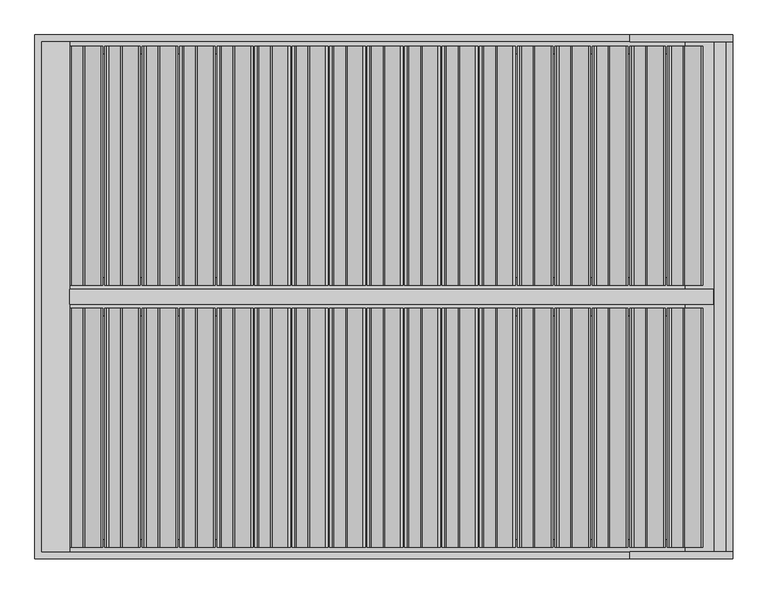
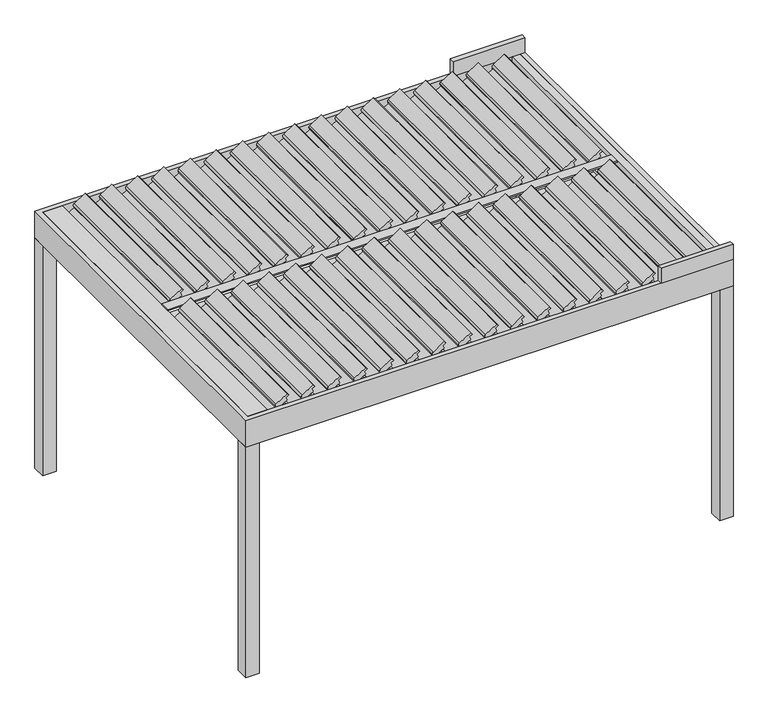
"""IFC4 building model written with IfcOpenShell, lengths in millimetres: proxy geometry, Renson_Algarve_Single Unit With Intermediate Beam : Algarve - Single Unit With Intermediate Beam."""

from ifc_helpers import new_model, si_unit, point, frame, frame_2d, origin, origin_with_axes, place, context, project, spatial, polyline, circle_curve, trimmed, segment, composite_curve, outline, extrude, faceted_brep, source, transform, mapped, element, save


def generic_models_2351d9f3(model_context):
    return source(origin(), model_context, "Body", "SolidModel", [
        extrude(outline(composite_curve([segment(polyline([(2239.6354765, 1602.1127309), (2264.8015087, 1590.3776174), (2280.418628, 1614.6571486), (2295.5823251, 1601.9332959), (2236.0080876, 1509.3147703)]), True, "CONTINUOUS"), segment(trimmed(circle_curve(frame_2d((2223.3925024, 1517.4293873)), 15.0), [point((2236.0080876, 1509.3147703))], [point((2218.2622002, 1503.333998))], False, "CARTESIAN"), True, "CONTINUOUS"), segment(polyline([(2218.2622002, 1503.333998), (2199.9135617, 1510.0123563), (2156.0456737, 1434.0309454), (2169.3306402, 1422.883535), (2161.0566607, 1410.0201932), (2135.5876405, 1421.8965924), (2239.6354765, 1602.1127309)]), True, "CONTINUOUS")], self_intersect=False)), frame((0.0, -2185.0, 0.0), z_axis=(0.0, 1.0, 0.0), x_axis=(0.0, 0.0, 1.0)), (0.0, 0.0, 1.0), 1370.0),
        extrude(outline(composite_curve([segment(polyline([(2239.6354765, 1387.1019261), (2264.8015087, 1375.3668126), (2280.418628, 1399.6463438), (2295.5823251, 1386.9224911), (2236.0080876, 1294.3039655)]), True, "CONTINUOUS"), segment(trimmed(circle_curve(frame_2d((2223.3925024, 1302.4185826)), 15.0), [point((2236.0080876, 1294.3039655))], [point((2218.2622002, 1288.3231933))], False, "CARTESIAN"), True, "CONTINUOUS"), segment(polyline([(2218.2622002, 1288.3231933), (2199.9135617, 1295.0015515), (2156.0456737, 1219.0201406), (2169.3306402, 1207.8727302), (2161.0566607, 1195.0093884), (2135.5876405, 1206.8857876), (2239.6354765, 1387.1019261)]), True, "CONTINUOUS")], self_intersect=False)), frame((0.0, -2185.0, 0.0), z_axis=(0.0, 1.0, 0.0), x_axis=(0.0, 0.0, 1.0)), (0.0, 0.0, 1.0), 1370.0),
        extrude(outline(composite_curve([segment(polyline([(2239.6354765, 1172.0911213), (2264.8015087, 1160.3560078), (2280.418628, 1184.635539), (2295.5823251, 1171.9116864), (2236.0080876, 1079.2931607)]), True, "CONTINUOUS"), segment(trimmed(circle_curve(frame_2d((2223.3925024, 1087.4077778)), 15.0), [point((2236.0080876, 1079.2931607))], [point((2218.2622002, 1073.3123885))], False, "CARTESIAN"), True, "CONTINUOUS"), segment(polyline([(2218.2622002, 1073.3123885), (2199.9135617, 1079.9907467), (2156.0456737, 1004.0093359), (2169.3306402, 992.8619254), (2161.0566607, 979.9985836), (2135.5876405, 991.8749828), (2239.6354765, 1172.0911213)]), True, "CONTINUOUS")], self_intersect=False)), frame((0.0, -2185.0, 0.0), z_axis=(0.0, 1.0, 0.0), x_axis=(0.0, 0.0, 1.0)), (0.0, 0.0, 1.0), 1370.0),
        extrude(outline(composite_curve([segment(polyline([(2239.6354765, 957.0803166), (2264.8015087, 945.345203), (2280.418628, 969.6247342), (2295.5823251, 956.9008816), (2236.0080876, 864.2823559)]), True, "CONTINUOUS"), segment(trimmed(circle_curve(frame_2d((2223.3925024, 872.396973)), 15.0), [point((2236.0080876, 864.2823559))], [point((2218.2622002, 858.3015837))], False, "CARTESIAN"), True, "CONTINUOUS"), segment(polyline([(2218.2622002, 858.3015837), (2199.9135617, 864.9799419), (2156.0456737, 788.9985311), (2169.3306402, 777.8511206), (2161.0566607, 764.9877788), (2135.5876405, 776.864178), (2239.6354765, 957.0803166)]), True, "CONTINUOUS")], self_intersect=False)), frame((0.0, -2185.0, 0.0), z_axis=(0.0, 1.0, 0.0), x_axis=(0.0, 0.0, 1.0)), (0.0, 0.0, 1.0), 1370.0),
        extrude(outline(composite_curve([segment(polyline([(2239.6354765, 742.0695118), (2264.8015087, 730.3343982), (2280.418628, 754.6139294), (2295.5823251, 741.8900768), (2236.0080876, 649.2715512)]), True, "CONTINUOUS"), segment(trimmed(circle_curve(frame_2d((2223.3925024, 657.3861682)), 15.0), [point((2236.0080876, 649.2715512))], [point((2218.2622002, 643.2907789))], False, "CARTESIAN"), True, "CONTINUOUS"), segment(polyline([(2218.2622002, 643.2907789), (2199.9135617, 649.9691372), (2156.0456737, 573.9877263), (2169.3306402, 562.8403158), (2161.0566607, 549.9769741), (2135.5876405, 561.8533733), (2239.6354765, 742.0695118)]), True, "CONTINUOUS")], self_intersect=False)), frame((0.0, -2185.0, 0.0), z_axis=(0.0, 1.0, 0.0), x_axis=(0.0, 0.0, 1.0)), (0.0, 0.0, 1.0), 1370.0),
        extrude(outline(composite_curve([segment(polyline([(2239.6354765, 527.058707), (2264.8015087, 515.3235934), (2280.418628, 539.6031247), (2295.5823251, 526.879272), (2236.0080876, 434.2607464)]), True, "CONTINUOUS"), segment(trimmed(circle_curve(frame_2d((2223.3925024, 442.3753634)), 15.0), [point((2236.0080876, 434.2607464))], [point((2218.2622002, 428.2799741))], False, "CARTESIAN"), True, "CONTINUOUS"), segment(polyline([(2218.2622002, 428.2799741), (2199.9135617, 434.9583324), (2156.0456737, 358.9769215), (2169.3306402, 347.829511), (2161.0566607, 334.9661693), (2135.5876405, 346.8425685), (2239.6354765, 527.058707)]), True, "CONTINUOUS")], self_intersect=False)), frame((0.0, -2185.0, 0.0), z_axis=(0.0, 1.0, 0.0), x_axis=(0.0, 0.0, 1.0)), (0.0, 0.0, 1.0), 1370.0),
        extrude(outline(composite_curve([segment(polyline([(2239.6354765, 312.0479022), (2264.8015087, 300.3127887), (2280.418628, 324.5923199), (2295.5823251, 311.8684672), (2236.0080876, 219.2499416)]), True, "CONTINUOUS"), segment(trimmed(circle_curve(frame_2d((2223.3925024, 227.3645587)), 15.0), [point((2236.0080876, 219.2499416))], [point((2218.2622002, 213.2691693))], False, "CARTESIAN"), True, "CONTINUOUS"), segment(polyline([(2218.2622002, 213.2691693), (2199.9135617, 219.9475276), (2156.0456737, 143.9661167), (2169.3306402, 132.8187063), (2161.0566607, 119.9553645), (2135.5876405, 131.8317637), (2239.6354765, 312.0479022)]), True, "CONTINUOUS")], self_intersect=False)), frame((0.0, -2185.0, 0.0), z_axis=(0.0, 1.0, 0.0), x_axis=(0.0, 0.0, 1.0)), (0.0, 0.0, 1.0), 1370.0),
        extrude(outline(composite_curve([segment(polyline([(2239.6354765, 97.0370974), (2264.8015087, 85.3019839), (2280.418628, 109.5815151), (2295.5823251, 96.8576625), (2236.0080876, 4.2391368)]), True, "CONTINUOUS"), segment(trimmed(circle_curve(frame_2d((2223.3925024, 12.3537539)), 15.0), [point((2236.0080876, 4.2391368))], [point((2218.2622002, -1.7416354))], False, "CARTESIAN"), True, "CONTINUOUS"), segment(polyline([(2218.2622002, -1.7416354), (2199.9135617, 4.9367228), (2156.0456737, -71.0446881), (2169.3306402, -82.1920985), (2161.0566607, -95.0554403), (2135.5876405, -83.1790411), (2239.6354765, 97.0370974)]), True, "CONTINUOUS")], self_intersect=False)), frame((0.0, -2185.0, 0.0), z_axis=(0.0, 1.0, 0.0), x_axis=(0.0, 0.0, 1.0)), (0.0, 0.0, 1.0), 1370.0),
        extrude(outline(composite_curve([segment(polyline([(2239.6354765, -117.9737074), (2264.8015087, -129.7088209), (2280.418628, -105.4292897), (2295.5823251, -118.1531423), (2236.0080876, -210.771668)]), True, "CONTINUOUS"), segment(trimmed(circle_curve(frame_2d((2223.3925024, -202.6570509)), 15.0), [point((2236.0080876, -210.771668))], [point((2218.2622002, -216.7524402))], False, "CARTESIAN"), True, "CONTINUOUS"), segment(polyline([(2218.2622002, -216.7524402), (2199.9135617, -210.074082), (2156.0456737, -286.0554928), (2169.3306402, -297.2029033), (2161.0566607, -310.0662451), (2135.5876405, -298.1898459), (2239.6354765, -117.9737074)]), True, "CONTINUOUS")], self_intersect=False)), frame((0.0, -2185.0, 0.0), z_axis=(0.0, 1.0, 0.0), x_axis=(0.0, 0.0, 1.0)), (0.0, 0.0, 1.0), 1370.0),
        extrude(outline(composite_curve([segment(polyline([(2239.6354765, -332.9845121), (2264.8015087, -344.7196257), (2280.418628, -320.4400945), (2295.5823251, -333.1639471), (2236.0080876, -425.7824728)]), True, "CONTINUOUS"), segment(trimmed(circle_curve(frame_2d((2223.3925024, -417.6678557)), 15.0), [point((2236.0080876, -425.7824728))], [point((2218.2622002, -431.763245))], False, "CARTESIAN"), True, "CONTINUOUS"), segment(polyline([(2218.2622002, -431.763245), (2199.9135617, -425.0848868), (2156.0456737, -501.0662976), (2169.3306402, -512.2137081), (2161.0566607, -525.0770498), (2135.5876405, -513.2006506), (2239.6354765, -332.9845121)]), True, "CONTINUOUS")], self_intersect=False)), frame((0.0, -2185.0, 0.0), z_axis=(0.0, 1.0, 0.0), x_axis=(0.0, 0.0, 1.0)), (0.0, 0.0, 1.0), 1370.0),
        extrude(outline(composite_curve([segment(polyline([(2239.6354765, -547.9953169), (2264.8015087, -559.7304305), (2280.418628, -535.4508992), (2295.5823251, -548.1747519), (2236.0080876, -640.7932775)]), True, "CONTINUOUS"), segment(trimmed(circle_curve(frame_2d((2223.3925024, -632.6786605)), 15.0), [point((2236.0080876, -640.7932775))], [point((2218.2622002, -646.7740498))], False, "CARTESIAN"), True, "CONTINUOUS"), segment(polyline([(2218.2622002, -646.7740498), (2199.9135617, -640.0956915), (2156.0456737, -716.0771024), (2169.3306402, -727.2245129), (2161.0566607, -740.0878546), (2135.5876405, -728.2114554), (2239.6354765, -547.9953169)]), True, "CONTINUOUS")], self_intersect=False)), frame((0.0, -2185.0, 0.0), z_axis=(0.0, 1.0, 0.0), x_axis=(0.0, 0.0, 1.0)), (0.0, 0.0, 1.0), 1370.0),
        extrude(outline(composite_curve([segment(polyline([(2239.6354765, -763.0061217), (2264.8015087, -774.7412352), (2280.418628, -750.461704), (2295.5823251, -763.1855567), (2236.0080876, -855.8040823)]), True, "CONTINUOUS"), segment(trimmed(circle_curve(frame_2d((2223.3925024, -847.6894652)), 15.0), [point((2236.0080876, -855.8040823))], [point((2218.2622002, -861.7848546))], False, "CARTESIAN"), True, "CONTINUOUS"), segment(polyline([(2218.2622002, -861.7848546), (2199.9135617, -855.1064963), (2156.0456737, -931.0879072), (2169.3306402, -942.2353176), (2161.0566607, -955.0986594), (2135.5876405, -943.2222602), (2239.6354765, -763.0061217)]), True, "CONTINUOUS")], self_intersect=False)), frame((0.0, -2185.0, 0.0), z_axis=(0.0, 1.0, 0.0), x_axis=(0.0, 0.0, 1.0)), (0.0, 0.0, 1.0), 1370.0),
        extrude(outline(composite_curve([segment(polyline([(2239.6354765, -978.0169265), (2264.8015087, -989.75204), (2280.418628, -965.4725088), (2295.5823251, -978.1963615), (2236.0080876, -1070.8148871)]), True, "CONTINUOUS"), segment(trimmed(circle_curve(frame_2d((2223.3925024, -1062.70027)), 15.0), [point((2236.0080876, -1070.8148871))], [point((2218.2622002, -1076.7956593))], False, "CARTESIAN"), True, "CONTINUOUS"), segment(polyline([(2218.2622002, -1076.7956593), (2199.9135617, -1070.1173011), (2156.0456737, -1146.098712), (2169.3306402, -1157.2461224), (2161.0566607, -1170.1094642), (2135.5876405, -1158.233065), (2239.6354765, -978.0169265)]), True, "CONTINUOUS")], self_intersect=False)), frame((0.0, -2185.0, 0.0), z_axis=(0.0, 1.0, 0.0), x_axis=(0.0, 0.0, 1.0)), (0.0, 0.0, 1.0), 1370.0),
        extrude(outline(composite_curve([segment(polyline([(2239.6354765, -1193.0277313), (2264.8015087, -1204.7628448), (2280.418628, -1180.4833136), (2295.5823251, -1193.2071662), (2236.0080876, -1285.8256919)]), True, "CONTINUOUS"), segment(trimmed(circle_curve(frame_2d((2223.3925024, -1277.7110748)), 15.0), [point((2236.0080876, -1285.8256919))], [point((2218.2622002, -1291.8064641))], False, "CARTESIAN"), True, "CONTINUOUS"), segment(polyline([(2218.2622002, -1291.8064641), (2199.9135617, -1285.1281059), (2156.0456737, -1361.1095167), (2169.3306402, -1372.2569272), (2161.0566607, -1385.120269), (2135.5876405, -1373.2438698), (2239.6354765, -1193.0277313)]), True, "CONTINUOUS")], self_intersect=False)), frame((0.0, -2185.0, 0.0), z_axis=(0.0, 1.0, 0.0), x_axis=(0.0, 0.0, 1.0)), (0.0, 0.0, 1.0), 1370.0),
        extrude(outline(composite_curve([segment(polyline([(2239.6354765, -1408.038536), (2264.8015087, -1419.7736496), (2280.418628, -1395.4941184), (2295.5823251, -1408.217971), (2236.0080876, -1500.8364967)]), True, "CONTINUOUS"), segment(trimmed(circle_curve(frame_2d((2223.3925024, -1492.7218796)), 15.0), [point((2236.0080876, -1500.8364967))], [point((2218.2622002, -1506.8172689))], False, "CARTESIAN"), True, "CONTINUOUS"), segment(polyline([(2218.2622002, -1506.8172689), (2199.9135617, -1500.1389107), (2156.0456737, -1576.1203215), (2169.3306402, -1587.267732), (2161.0566607, -1600.1310738), (2135.5876405, -1588.2546746), (2239.6354765, -1408.038536)]), True, "CONTINUOUS")], self_intersect=False)), frame((0.0, -2185.0, 0.0), z_axis=(0.0, 1.0, 0.0), x_axis=(0.0, 0.0, 1.0)), (0.0, 0.0, 1.0), 1370.0),
        extrude(outline(composite_curve([segment(polyline([(2239.6354765, 1817.1235357), (2264.8015087, 1805.3884221), (2280.418628, 1829.6679534), (2295.5823251, 1816.9441007), (2236.0080876, 1724.3255751)]), True, "CONTINUOUS"), segment(trimmed(circle_curve(frame_2d((2223.3925024, 1732.4401921)), 15.0), [point((2236.0080876, 1724.3255751))], [point((2218.2622002, 1718.3448028))], False, "CARTESIAN"), True, "CONTINUOUS"), segment(polyline([(2218.2622002, 1718.3448028), (2199.9135617, 1725.0231611), (2156.0456737, 1649.0417502), (2169.3306402, 1637.8943397), (2161.0566607, 1625.030998), (2135.5876405, 1636.9073972), (2239.6354765, 1817.1235357)]), True, "CONTINUOUS")], self_intersect=False)), frame((0.0, -2185.0, 0.0), z_axis=(0.0, 1.0, 0.0), x_axis=(0.0, 0.0, 1.0)), (0.0, 0.0, 1.0), 1370.0),
        extrude(outline(composite_curve([segment(polyline([(2239.6354765, -1623.0493408), (2264.8015087, -1634.7844544), (2280.418628, -1610.5049231), (2295.5823251, -1623.2287758), (2236.0080876, -1715.8473014)]), True, "CONTINUOUS"), segment(trimmed(circle_curve(frame_2d((2223.3925024, -1707.7326844)), 15.0), [point((2236.0080876, -1715.8473014))], [point((2218.2622002, -1721.8280737))], False, "CARTESIAN"), True, "CONTINUOUS"), segment(polyline([(2218.2622002, -1721.8280737), (2199.9135617, -1715.1497154), (2156.0456737, -1791.1311263), (2169.3306402, -1802.2785368), (2161.0566607, -1815.1418785), (2135.5876405, -1803.2654793), (2239.6354765, -1623.0493408)]), True, "CONTINUOUS")], self_intersect=False)), frame((0.0, -2185.0, 0.0), z_axis=(0.0, 1.0, 0.0), x_axis=(0.0, 0.0, 1.0)), (0.0, 0.0, 1.0), 1370.0),
        extrude(outline(composite_curve([segment(polyline([(2239.6354765, 1602.1127309), (2264.8015087, 1590.3776174), (2280.418628, 1614.6571486), (2295.5823251, 1601.9332959), (2236.0080876, 1509.3147703)]), True, "CONTINUOUS"), segment(trimmed(circle_curve(frame_2d((2223.3925024, 1517.4293873)), 15.0), [point((2236.0080876, 1509.3147703))], [point((2218.2622002, 1503.333998))], False, "CARTESIAN"), True, "CONTINUOUS"), segment(polyline([(2218.2622002, 1503.333998), (2199.9135617, 1510.0123563), (2156.0456737, 1434.0309454), (2169.3306402, 1422.883535), (2161.0566607, 1410.0201932), (2135.5876405, 1421.8965924), (2239.6354765, 1602.1127309)]), True, "CONTINUOUS")], self_intersect=False)), frame((0.0, -685.0, 0.0), z_axis=(0.0, 1.0, 0.0), x_axis=(0.0, 0.0, 1.0)), (0.0, 0.0, 1.0), 1370.0),
        extrude(outline(composite_curve([segment(polyline([(2239.6354765, 1387.1019261), (2264.8015087, 1375.3668126), (2280.418628, 1399.6463438), (2295.5823251, 1386.9224911), (2236.0080876, 1294.3039655)]), True, "CONTINUOUS"), segment(trimmed(circle_curve(frame_2d((2223.3925024, 1302.4185826)), 15.0), [point((2236.0080876, 1294.3039655))], [point((2218.2622002, 1288.3231933))], False, "CARTESIAN"), True, "CONTINUOUS"), segment(polyline([(2218.2622002, 1288.3231933), (2199.9135617, 1295.0015515), (2156.0456737, 1219.0201406), (2169.3306402, 1207.8727302), (2161.0566607, 1195.0093884), (2135.5876405, 1206.8857876), (2239.6354765, 1387.1019261)]), True, "CONTINUOUS")], self_intersect=False)), frame((0.0, -685.0, 0.0), z_axis=(0.0, 1.0, 0.0), x_axis=(0.0, 0.0, 1.0)), (0.0, 0.0, 1.0), 1370.0),
        extrude(outline(composite_curve([segment(polyline([(2239.6354765, 1172.0911213), (2264.8015087, 1160.3560078), (2280.418628, 1184.635539), (2295.5823251, 1171.9116864), (2236.0080876, 1079.2931607)]), True, "CONTINUOUS"), segment(trimmed(circle_curve(frame_2d((2223.3925024, 1087.4077778)), 15.0), [point((2236.0080876, 1079.2931607))], [point((2218.2622002, 1073.3123885))], False, "CARTESIAN"), True, "CONTINUOUS"), segment(polyline([(2218.2622002, 1073.3123885), (2199.9135617, 1079.9907467), (2156.0456737, 1004.0093359), (2169.3306402, 992.8619254), (2161.0566607, 979.9985836), (2135.5876405, 991.8749828), (2239.6354765, 1172.0911213)]), True, "CONTINUOUS")], self_intersect=False)), frame((0.0, -685.0, 0.0), z_axis=(0.0, 1.0, 0.0), x_axis=(0.0, 0.0, 1.0)), (0.0, 0.0, 1.0), 1370.0),
        extrude(outline(composite_curve([segment(polyline([(2239.6354765, 957.0803166), (2264.8015087, 945.345203), (2280.418628, 969.6247342), (2295.5823251, 956.9008816), (2236.0080876, 864.2823559)]), True, "CONTINUOUS"), segment(trimmed(circle_curve(frame_2d((2223.3925024, 872.396973)), 15.0), [point((2236.0080876, 864.2823559))], [point((2218.2622002, 858.3015837))], False, "CARTESIAN"), True, "CONTINUOUS"), segment(polyline([(2218.2622002, 858.3015837), (2199.9135617, 864.9799419), (2156.0456737, 788.9985311), (2169.3306402, 777.8511206), (2161.0566607, 764.9877788), (2135.5876405, 776.864178), (2239.6354765, 957.0803166)]), True, "CONTINUOUS")], self_intersect=False)), frame((0.0, -685.0, 0.0), z_axis=(0.0, 1.0, 0.0), x_axis=(0.0, 0.0, 1.0)), (0.0, 0.0, 1.0), 1370.0),
        extrude(outline(composite_curve([segment(polyline([(2239.6354765, 742.0695118), (2264.8015087, 730.3343982), (2280.418628, 754.6139294), (2295.5823251, 741.8900768), (2236.0080876, 649.2715512)]), True, "CONTINUOUS"), segment(trimmed(circle_curve(frame_2d((2223.3925024, 657.3861682)), 15.0), [point((2236.0080876, 649.2715512))], [point((2218.2622002, 643.2907789))], False, "CARTESIAN"), True, "CONTINUOUS"), segment(polyline([(2218.2622002, 643.2907789), (2199.9135617, 649.9691372), (2156.0456737, 573.9877263), (2169.3306402, 562.8403158), (2161.0566607, 549.9769741), (2135.5876405, 561.8533733), (2239.6354765, 742.0695118)]), True, "CONTINUOUS")], self_intersect=False)), frame((0.0, -685.0, 0.0), z_axis=(0.0, 1.0, 0.0), x_axis=(0.0, 0.0, 1.0)), (0.0, 0.0, 1.0), 1370.0),
        extrude(outline(composite_curve([segment(polyline([(2239.6354765, 527.058707), (2264.8015087, 515.3235934), (2280.418628, 539.6031247), (2295.5823251, 526.879272), (2236.0080876, 434.2607464)]), True, "CONTINUOUS"), segment(trimmed(circle_curve(frame_2d((2223.3925024, 442.3753634)), 15.0), [point((2236.0080876, 434.2607464))], [point((2218.2622002, 428.2799741))], False, "CARTESIAN"), True, "CONTINUOUS"), segment(polyline([(2218.2622002, 428.2799741), (2199.9135617, 434.9583324), (2156.0456737, 358.9769215), (2169.3306402, 347.829511), (2161.0566607, 334.9661693), (2135.5876405, 346.8425685), (2239.6354765, 527.058707)]), True, "CONTINUOUS")], self_intersect=False)), frame((0.0, -685.0, 0.0), z_axis=(0.0, 1.0, 0.0), x_axis=(0.0, 0.0, 1.0)), (0.0, 0.0, 1.0), 1370.0),
        extrude(outline(composite_curve([segment(polyline([(2239.6354765, 312.0479022), (2264.8015087, 300.3127887), (2280.418628, 324.5923199), (2295.5823251, 311.8684672), (2236.0080876, 219.2499416)]), True, "CONTINUOUS"), segment(trimmed(circle_curve(frame_2d((2223.3925024, 227.3645587)), 15.0), [point((2236.0080876, 219.2499416))], [point((2218.2622002, 213.2691693))], False, "CARTESIAN"), True, "CONTINUOUS"), segment(polyline([(2218.2622002, 213.2691693), (2199.9135617, 219.9475276), (2156.0456737, 143.9661167), (2169.3306402, 132.8187063), (2161.0566607, 119.9553645), (2135.5876405, 131.8317637), (2239.6354765, 312.0479022)]), True, "CONTINUOUS")], self_intersect=False)), frame((0.0, -685.0, 0.0), z_axis=(0.0, 1.0, 0.0), x_axis=(0.0, 0.0, 1.0)), (0.0, 0.0, 1.0), 1370.0),
        extrude(outline(composite_curve([segment(polyline([(2239.6354765, 97.0370974), (2264.8015087, 85.3019839), (2280.418628, 109.5815151), (2295.5823251, 96.8576625), (2236.0080876, 4.2391368)]), True, "CONTINUOUS"), segment(trimmed(circle_curve(frame_2d((2223.3925024, 12.3537539)), 15.0), [point((2236.0080876, 4.2391368))], [point((2218.2622002, -1.7416354))], False, "CARTESIAN"), True, "CONTINUOUS"), segment(polyline([(2218.2622002, -1.7416354), (2199.9135617, 4.9367228), (2156.0456737, -71.0446881), (2169.3306402, -82.1920985), (2161.0566607, -95.0554403), (2135.5876405, -83.1790411), (2239.6354765, 97.0370974)]), True, "CONTINUOUS")], self_intersect=False)), frame((0.0, -685.0, 0.0), z_axis=(0.0, 1.0, 0.0), x_axis=(0.0, 0.0, 1.0)), (0.0, 0.0, 1.0), 1370.0),
        extrude(outline(composite_curve([segment(polyline([(2239.6354765, -117.9737074), (2264.8015087, -129.7088209), (2280.418628, -105.4292897), (2295.5823251, -118.1531423), (2236.0080876, -210.771668)]), True, "CONTINUOUS"), segment(trimmed(circle_curve(frame_2d((2223.3925024, -202.6570509)), 15.0), [point((2236.0080876, -210.771668))], [point((2218.2622002, -216.7524402))], False, "CARTESIAN"), True, "CONTINUOUS"), segment(polyline([(2218.2622002, -216.7524402), (2199.9135617, -210.074082), (2156.0456737, -286.0554928), (2169.3306402, -297.2029033), (2161.0566607, -310.0662451), (2135.5876405, -298.1898459), (2239.6354765, -117.9737074)]), True, "CONTINUOUS")], self_intersect=False)), frame((0.0, -685.0, 0.0), z_axis=(0.0, 1.0, 0.0), x_axis=(0.0, 0.0, 1.0)), (0.0, 0.0, 1.0), 1370.0),
        extrude(outline(composite_curve([segment(polyline([(2239.6354765, -332.9845121), (2264.8015087, -344.7196257), (2280.418628, -320.4400945), (2295.5823251, -333.1639471), (2236.0080876, -425.7824728)]), True, "CONTINUOUS"), segment(trimmed(circle_curve(frame_2d((2223.3925024, -417.6678557)), 15.0), [point((2236.0080876, -425.7824728))], [point((2218.2622002, -431.763245))], False, "CARTESIAN"), True, "CONTINUOUS"), segment(polyline([(2218.2622002, -431.763245), (2199.9135617, -425.0848868), (2156.0456737, -501.0662976), (2169.3306402, -512.2137081), (2161.0566607, -525.0770498), (2135.5876405, -513.2006506), (2239.6354765, -332.9845121)]), True, "CONTINUOUS")], self_intersect=False)), frame((0.0, -685.0, 0.0), z_axis=(0.0, 1.0, 0.0), x_axis=(0.0, 0.0, 1.0)), (0.0, 0.0, 1.0), 1370.0),
        extrude(outline(composite_curve([segment(polyline([(2239.6354765, -547.9953169), (2264.8015087, -559.7304305), (2280.418628, -535.4508992), (2295.5823251, -548.1747519), (2236.0080876, -640.7932775)]), True, "CONTINUOUS"), segment(trimmed(circle_curve(frame_2d((2223.3925024, -632.6786605)), 15.0), [point((2236.0080876, -640.7932775))], [point((2218.2622002, -646.7740498))], False, "CARTESIAN"), True, "CONTINUOUS"), segment(polyline([(2218.2622002, -646.7740498), (2199.9135617, -640.0956915), (2156.0456737, -716.0771024), (2169.3306402, -727.2245129), (2161.0566607, -740.0878546), (2135.5876405, -728.2114554), (2239.6354765, -547.9953169)]), True, "CONTINUOUS")], self_intersect=False)), frame((0.0, -685.0, 0.0), z_axis=(0.0, 1.0, 0.0), x_axis=(0.0, 0.0, 1.0)), (0.0, 0.0, 1.0), 1370.0),
        extrude(outline(composite_curve([segment(polyline([(2239.6354765, -763.0061217), (2264.8015087, -774.7412352), (2280.418628, -750.461704), (2295.5823251, -763.1855567), (2236.0080876, -855.8040823)]), True, "CONTINUOUS"), segment(trimmed(circle_curve(frame_2d((2223.3925024, -847.6894652)), 15.0), [point((2236.0080876, -855.8040823))], [point((2218.2622002, -861.7848546))], False, "CARTESIAN"), True, "CONTINUOUS"), segment(polyline([(2218.2622002, -861.7848546), (2199.9135617, -855.1064963), (2156.0456737, -931.0879072), (2169.3306402, -942.2353176), (2161.0566607, -955.0986594), (2135.5876405, -943.2222602), (2239.6354765, -763.0061217)]), True, "CONTINUOUS")], self_intersect=False)), frame((0.0, -685.0, 0.0), z_axis=(0.0, 1.0, 0.0), x_axis=(0.0, 0.0, 1.0)), (0.0, 0.0, 1.0), 1370.0),
        extrude(outline(composite_curve([segment(polyline([(2239.6354765, -978.0169265), (2264.8015087, -989.75204), (2280.418628, -965.4725088), (2295.5823251, -978.1963615), (2236.0080876, -1070.8148871)]), True, "CONTINUOUS"), segment(trimmed(circle_curve(frame_2d((2223.3925024, -1062.70027)), 15.0), [point((2236.0080876, -1070.8148871))], [point((2218.2622002, -1076.7956593))], False, "CARTESIAN"), True, "CONTINUOUS"), segment(polyline([(2218.2622002, -1076.7956593), (2199.9135617, -1070.1173011), (2156.0456737, -1146.098712), (2169.3306402, -1157.2461224), (2161.0566607, -1170.1094642), (2135.5876405, -1158.233065), (2239.6354765, -978.0169265)]), True, "CONTINUOUS")], self_intersect=False)), frame((0.0, -685.0, 0.0), z_axis=(0.0, 1.0, 0.0), x_axis=(0.0, 0.0, 1.0)), (0.0, 0.0, 1.0), 1370.0),
        extrude(outline(composite_curve([segment(polyline([(2239.6354765, -1193.0277313), (2264.8015087, -1204.7628448), (2280.418628, -1180.4833136), (2295.5823251, -1193.2071662), (2236.0080876, -1285.8256919)]), True, "CONTINUOUS"), segment(trimmed(circle_curve(frame_2d((2223.3925024, -1277.7110748)), 15.0), [point((2236.0080876, -1285.8256919))], [point((2218.2622002, -1291.8064641))], False, "CARTESIAN"), True, "CONTINUOUS"), segment(polyline([(2218.2622002, -1291.8064641), (2199.9135617, -1285.1281059), (2156.0456737, -1361.1095167), (2169.3306402, -1372.2569272), (2161.0566607, -1385.120269), (2135.5876405, -1373.2438698), (2239.6354765, -1193.0277313)]), True, "CONTINUOUS")], self_intersect=False)), frame((0.0, -685.0, 0.0), z_axis=(0.0, 1.0, 0.0), x_axis=(0.0, 0.0, 1.0)), (0.0, 0.0, 1.0), 1370.0),
        extrude(outline(composite_curve([segment(polyline([(2239.6354765, -1408.038536), (2264.8015087, -1419.7736496), (2280.418628, -1395.4941184), (2295.5823251, -1408.217971), (2236.0080876, -1500.8364967)]), True, "CONTINUOUS"), segment(trimmed(circle_curve(frame_2d((2223.3925024, -1492.7218796)), 15.0), [point((2236.0080876, -1500.8364967))], [point((2218.2622002, -1506.8172689))], False, "CARTESIAN"), True, "CONTINUOUS"), segment(polyline([(2218.2622002, -1506.8172689), (2199.9135617, -1500.1389107), (2156.0456737, -1576.1203215), (2169.3306402, -1587.267732), (2161.0566607, -1600.1310738), (2135.5876405, -1588.2546746), (2239.6354765, -1408.038536)]), True, "CONTINUOUS")], self_intersect=False)), frame((0.0, -685.0, 0.0), z_axis=(0.0, 1.0, 0.0), x_axis=(0.0, 0.0, 1.0)), (0.0, 0.0, 1.0), 1370.0),
        extrude(outline(composite_curve([segment(polyline([(2239.6354765, 1817.1235357), (2264.8015087, 1805.3884221), (2280.418628, 1829.6679534), (2295.5823251, 1816.9441007), (2236.0080876, 1724.3255751)]), True, "CONTINUOUS"), segment(trimmed(circle_curve(frame_2d((2223.3925024, 1732.4401921)), 15.0), [point((2236.0080876, 1724.3255751))], [point((2218.2622002, 1718.3448028))], False, "CARTESIAN"), True, "CONTINUOUS"), segment(polyline([(2218.2622002, 1718.3448028), (2199.9135617, 1725.0231611), (2156.0456737, 1649.0417502), (2169.3306402, 1637.8943397), (2161.0566607, 1625.030998), (2135.5876405, 1636.9073972), (2239.6354765, 1817.1235357)]), True, "CONTINUOUS")], self_intersect=False)), frame((0.0, -685.0, 0.0), z_axis=(0.0, 1.0, 0.0), x_axis=(0.0, 0.0, 1.0)), (0.0, 0.0, 1.0), 1370.0),
        extrude(outline(composite_curve([segment(polyline([(2239.6354765, -1623.0493408), (2264.8015087, -1634.7844544), (2280.418628, -1610.5049231), (2295.5823251, -1623.2287758), (2236.0080876, -1715.8473014)]), True, "CONTINUOUS"), segment(trimmed(circle_curve(frame_2d((2223.3925024, -1707.7326844)), 15.0), [point((2236.0080876, -1715.8473014))], [point((2218.2622002, -1721.8280737))], False, "CARTESIAN"), True, "CONTINUOUS"), segment(polyline([(2218.2622002, -1721.8280737), (2199.9135617, -1715.1497154), (2156.0456737, -1791.1311263), (2169.3306402, -1802.2785368), (2161.0566607, -1815.1418785), (2135.5876405, -1803.2654793), (2239.6354765, -1623.0493408)]), True, "CONTINUOUS")], self_intersect=False)), frame((0.0, -685.0, 0.0), z_axis=(0.0, 1.0, 0.0), x_axis=(0.0, 0.0, 1.0)), (0.0, 0.0, 1.0), 1370.0),
        extrude(outline(polyline([(2168.0, 1960.0), (2230.0, 1960.0), (2230.0, 1896.0), (2188.0, 1896.0), (2188.0, 1730.0), (2168.0, 1730.0), (2168.0, 1960.0)])), frame((0.0, -2210.0, 0.0), z_axis=(0.0, 1.0, 0.0), x_axis=(0.0, 0.0, 1.0)), (0.0, 0.0, 1.0), 2920.0),
        extrude(outline(polyline([(2230.0, -1800.0), (2230.0, -1960.0), (2186.0, -1960.0), (2186.0, -1827.3193336), (2219.1716603, -1824.4171894), (2220.344502, -1800.0), (2230.0, -1800.0)])), frame((0.0, -2210.0, 0.0), z_axis=(0.0, 1.0, 0.0), x_axis=(0.0, 0.0, 1.0)), (0.0, 0.0, 1.0), 2920.0),
        extrude(outline(polyline([(2000.0, -2210.0), (2000.0, -2250.0), (1410.0, -2250.0), (1410.0, -2210.0), (2000.0, -2210.0)])), frame((0.0, 0.0, 2230.0), z_axis=(0.0, 0.0, 1.0), x_axis=(1.0, 0.0, 0.0)), (0.0, 0.0, 1.0), 130.0),
        extrude(outline(polyline([(1890.0, -713.0), (-1890.0, -713.0), (-1890.0, -640.0), (1890.0, -640.0), (1890.0, -713.0)])), frame((0.0, 0.0, 2000.0), z_axis=(0.0, 0.0, 1.0), x_axis=(1.0, 0.0, 0.0)), (0.0, 0.0, 1.0), 90.0),
        extrude(outline(polyline([(1890.0, -787.0), (1890.0, -860.0), (-1890.0, -860.0), (-1890.0, -787.0), (1890.0, -787.0)])), frame((0.0, 0.0, 2000.0), z_axis=(0.0, 0.0, 1.0), x_axis=(1.0, 0.0, 0.0)), (0.0, 0.0, 1.0), 90.0),
        extrude(outline(polyline([(1890.0, -707.5), (1890.0, -792.5), (-1800.0, -792.5), (-1800.0, -707.5), (1890.0, -707.5)])), frame((0.0, 0.0, 2230.0), z_axis=(0.0, 0.0, 1.0), x_axis=(1.0, 0.0, 0.0)), (0.0, 0.0, 1.0), 10.0),
        faceted_brep([(1890.0, 640.0, 2057.0), (1890.0, 640.0, 2000.0), (1890.0, -2140.0, 2000.0), (1890.0, -2140.0, 2057.0), (2000.0, 750.0, 2000.0), (2000.0, 750.0, 2230.0), (2000.0, -2250.0, 2230.0), (2000.0, -2250.0, 2000.0), (1960.0, 710.0, 2230.0), (1960.0, 710.0, 2057.0), (1960.0, -2210.0, 2057.0), (1960.0, -2210.0, 2230.0), (-1890.0, -2140.0, 2000.0), (-1890.0, -2140.0, 2057.0), (-2000.0, -2250.0, 2230.0), (-2000.0, -2250.0, 2000.0), (-1960.0, -2210.0, 2057.0), (-1960.0, -2210.0, 2230.0), (-1890.0, 640.0, 2000.0), (-1890.0, 640.0, 2057.0), (-2000.0, 750.0, 2230.0), (-2000.0, 750.0, 2000.0), (-1960.0, 710.0, 2057.0), (-1960.0, 710.0, 2230.0)], [[[0, 1, 2, 3]], [[4, 5, 6, 7]], [[8, 9, 10, 11]], [[3, 2, 12, 13]], [[7, 6, 14, 15]], [[11, 10, 16, 17]], [[13, 12, 18, 19]], [[15, 14, 20, 21]], [[17, 16, 22, 23]], [[9, 22, 16, 10], [3, 13, 19, 0]], [[19, 18, 1, 0]], [[7, 15, 21, 4], [1, 18, 12, 2]], [[21, 20, 5, 4]], [[5, 20, 14, 6], [11, 17, 23, 8]], [[23, 22, 9, 8]]]),
        extrude(outline(polyline([(2000.0, 750.0), (2000.0, 640.0), (1890.0, 640.0), (1890.0, 750.0), (2000.0, 750.0)])), origin_with_axes(), (0.0, 0.0, 1.0), 2000.0),
        extrude(outline(polyline([(2000.0, -2140.0), (2000.0, -2250.0), (1890.0, -2250.0), (1890.0, -2140.0), (2000.0, -2140.0)])), origin_with_axes(), (0.0, 0.0, 1.0), 2000.0),
        extrude(outline(polyline([(-1890.0, -2140.0), (-1890.0, -2250.0), (-2000.0, -2250.0), (-2000.0, -2140.0), (-1890.0, -2140.0)])), origin_with_axes(), (0.0, 0.0, 1.0), 2000.0),
        extrude(outline(polyline([(-1890.0, 750.0), (-1890.0, 640.0), (-2000.0, 640.0), (-2000.0, 750.0), (-1890.0, 750.0)])), origin_with_axes(), (0.0, 0.0, 1.0), 2000.0),
        extrude(outline(polyline([(2000.0, 750.0), (2000.0, 710.0), (1410.0, 710.0), (1410.0, 750.0), (2000.0, 750.0)])), frame((0.0, 0.0, 2230.0), z_axis=(0.0, 0.0, 1.0), x_axis=(1.0, 0.0, 0.0)), (0.0, 0.0, 1.0), 130.0),
    ])


if __name__ == "__main__":
    model = new_model("IFC4")
    model_context = context("Model", 3, world=origin())
    ifc_project = project(units=[si_unit("LENGTHUNIT", "METRE", prefix="MILLI")], contexts=[model_context])
    site = spatial("IfcSite", under=ifc_project)
    building = spatial("IfcBuilding", under=site)
    placement = place(None, origin())
    generic_models_shape = generic_models_2351d9f3(model_context)
    element("IfcBuildingElementProxy", 1, Name="Renson_Algarve_Single Unit With Intermediate Beam : Algarve - Single Unit With Intermediate Beam", ObjectType="Renson_Algarve_Single Unit With Intermediate Beam : Algarve - Single Unit With Intermediate Beam", at=placement, inside=building, context=model_context, shape_type="MappedRepresentation", body=[
        mapped(generic_models_shape, transform((0.0, 0.0, 0.0), x_axis=(1.0, 0.0, 0.0), y_axis=(0.0, 1.0, 0.0), z_axis=(0.0, 0.0, 1.0))),
    ])
    save(model, "model.ifc")
